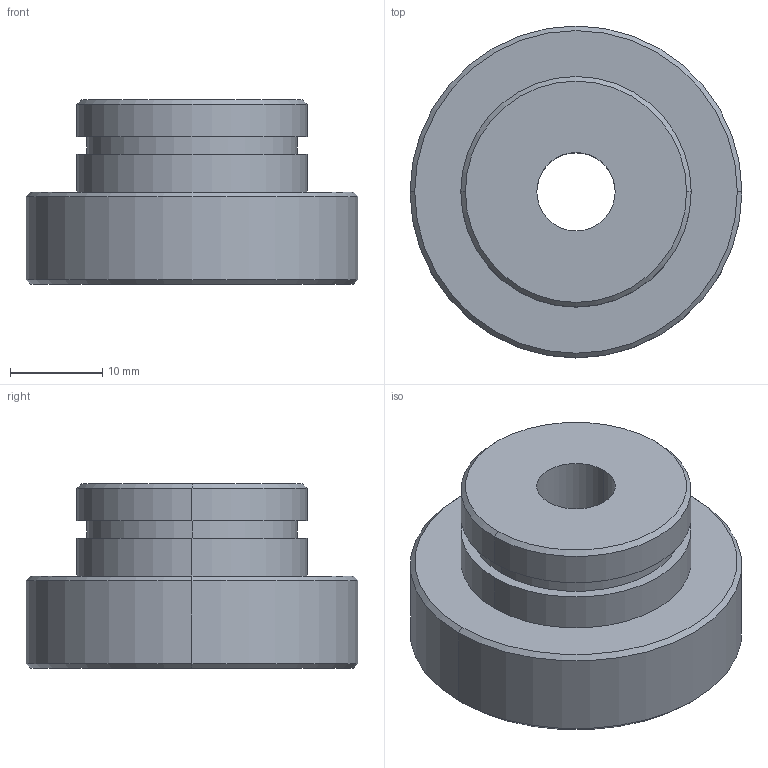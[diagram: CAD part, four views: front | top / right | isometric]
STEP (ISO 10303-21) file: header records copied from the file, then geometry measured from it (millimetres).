
FILE_DESCRIPTION(('CATIA V5 STEP Exchange'),'2;1');
FILE_NAME('C:\Users\hh\Desktop\阀体涂润滑脂治具\AGZ107 通用底座\pdf+stp\AGZ107.01_V1.stp','2024-10-31T06:22:34+00:00',('none'),('none'),'CATIA Version 5 Release 21 GA (IN-10)','CATIA V5 STEP AP214','none');
FILE_SCHEMA(('AUTOMOTIVE_DESIGN { 1 0 10303 214 1 1 1 1 }'));
Length unit declared in the file: millimetre
Products named in the file (1): AGZ107.01_V1
Bounding box: 36 x 36 x 20 mm (x, y, z)
Volume: 13758 mm3; surface area: 4434.5 mm2
Topology: 1 solids, 1 shells, 21 faces, 42 edges, 26 vertices
Faces by surface type: cylinder 10, cone 6, plane 5
Entity records: 531 total; most frequent: CARTESIAN_POINT 85, ORIENTED_EDGE 84, DIRECTION 74, AXIS2_PLACEMENT_3D 43, EDGE_CURVE 42, CIRCLE 26, EDGE_LOOP 26, VERTEX_POINT 26
